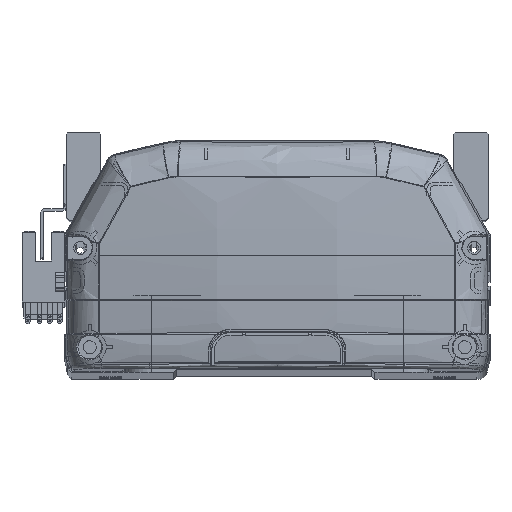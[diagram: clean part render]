
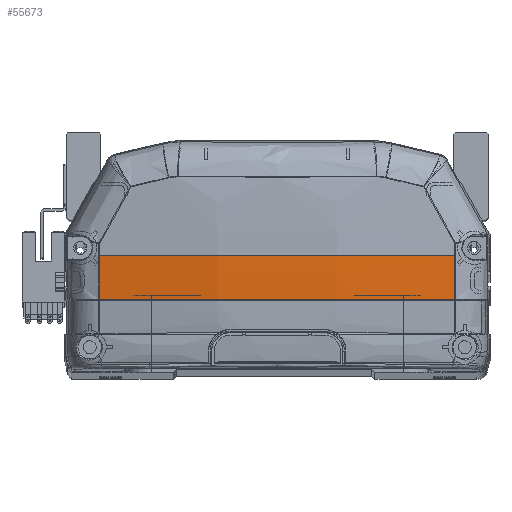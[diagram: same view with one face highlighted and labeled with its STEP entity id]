
A CAD part, top view. The second image highlights one B-rep face of the part: STEP entity #55673.
In plain terms, the highlighted free-form (B-spline) face has degree [3, 3] with [4, 4] control points.
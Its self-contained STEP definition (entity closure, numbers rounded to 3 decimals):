
#355 = B_SPLINE_CURVE_WITH_KNOTS ( 'NONE', 3,
 ( #42147, #46691, #959, #19573, #18792, #28667, #19774, #1915, #34164, #42950, #1718, #20344, #2116 ),
 .UNSPECIFIED., .F., .F.,
 ( 4, 2, 2, 1, 2, 2, 4 ),
 ( 0., 0.25, 0.375, 0.438, 0.469, 0.5, 1. ),
 .UNSPECIFIED. ) ;
#959 = CARTESIAN_POINT ( 'NONE',  ( 38.071, 22.225, -7.566 ) ) ;
#1628 = CARTESIAN_POINT ( 'NONE',  ( 57.335, 36., -5.042 ) ) ;
#1718 = CARTESIAN_POINT ( 'NONE',  ( -19.28, 22.225, -9.565 ) ) ;
#1824 = CARTESIAN_POINT ( 'NONE',  ( 57.335, 22.148, -4.7 ) ) ;
#1915 = CARTESIAN_POINT ( 'NONE',  ( 4.761, 22.225, -9.537 ) ) ;
#2017 = CARTESIAN_POINT ( 'NONE',  ( 19.295, 26.549, -11.419 ) ) ;
#2116 = CARTESIAN_POINT ( 'NONE',  ( -56.661, 22.225, -4.818 ) ) ;
#3206 = EDGE_CURVE ( 'NONE', #22244, #15286, #55947, .T. ) ;
#3847 = CARTESIAN_POINT ( 'NONE',  ( 56.661, 22.225, -4.818 ) ) ;
#11146 = CARTESIAN_POINT ( 'NONE',  ( -19.295, 26.549, -11.419 ) ) ;
#11979 = AXIS2_PLACEMENT_3D ( 'NONE', #45884, #22887, #40560 ) ;
#15110 = EDGE_LOOP ( 'NONE', ( #34543, #42275, #21921, #39199, #46668 ) ) ;
#15286 = VERTEX_POINT ( 'NONE', #31781 ) ;
#15497 = CARTESIAN_POINT ( 'NONE',  ( 19.295, 31.274, -11.535 ) ) ;
#15689 = CARTESIAN_POINT ( 'NONE',  ( 19.295, 36., -11.535 ) ) ;
#16253 = CIRCLE ( 'NONE', #25474, 6395.966 ) ;
#18792 = CARTESIAN_POINT ( 'NONE',  ( 19.121, 22.225, -9.064 ) ) ;
#18852 = B_SPLINE_CURVE_WITH_KNOTS ( 'NONE', 3,
 ( #3847, #35108, #43701, #21872 ),
 .UNSPECIFIED., .F., .F.,
 ( 4, 4 ),
 ( 0., 1. ),
 .UNSPECIFIED. ) ;
#19573 = CARTESIAN_POINT ( 'NONE',  ( 23.877, 22.225, -8.763 ) ) ;
#19682 = CARTESIAN_POINT ( 'NONE',  ( -19.295, 31.274, -11.535 ) ) ;
#19774 = CARTESIAN_POINT ( 'NONE',  ( 8.363, 22.225, -9.48 ) ) ;
#20344 = CARTESIAN_POINT ( 'NONE',  ( -38.235, 22.225, -7.93 ) ) ;
#20533 = VERTEX_POINT ( 'NONE', #41337 ) ;
#21058 = CARTESIAN_POINT ( 'NONE',  ( -56.652, 26.814, -5.045 ) ) ;
#21256 = CARTESIAN_POINT ( 'NONE',  ( -56.661, 22.225, -4.818 ) ) ;
#21872 = CARTESIAN_POINT ( 'NONE',  ( 56.647, 35.969, -5.158 ) ) ;
#21921 = ORIENTED_EDGE ( 'NONE', *, *, #55340, .F. ) ;
#22244 = VERTEX_POINT ( 'NONE', #31873 ) ;
#22887 = DIRECTION ( 'NONE',  ( 0., 1., 0. ) ) ;
#23997 = CARTESIAN_POINT ( 'NONE',  ( 19.295, 21.828, -11.186 ) ) ;
#25474 = AXIS2_PLACEMENT_3D ( 'NONE', #49748, #40434, #54071 ) ;
#28567 = CARTESIAN_POINT ( 'NONE',  ( 57.335, 26.762, -4.928 ) ) ;
#28667 = CARTESIAN_POINT ( 'NONE',  ( 11.954, 22.225, -9.367 ) ) ;
#29167 = CARTESIAN_POINT ( 'NONE',  ( -19.295, 21.828, -11.186 ) ) ;
#31129 = VERTEX_POINT ( 'NONE', #53394 ) ;
#31781 = CARTESIAN_POINT ( 'NONE',  ( -56.661, 22.225, -4.818 ) ) ;
#31873 = CARTESIAN_POINT ( 'NONE',  ( -56.647, 36., -5.158 ) ) ;
#33100 = CARTESIAN_POINT ( 'NONE',  ( -57.335, 26.762, -4.928 ) ) ;
#33299 = CARTESIAN_POINT ( 'NONE',  ( -19.295, 36., -11.535 ) ) ;
#34164 = CARTESIAN_POINT ( 'NONE',  ( 2.357, 22.225, -9.562 ) ) ;
#34543 = ORIENTED_EDGE ( 'NONE', *, *, #50870, .F. ) ;
#35108 = CARTESIAN_POINT ( 'NONE',  ( 56.652, 26.806, -5.044 ) ) ;
#36128 = EDGE_CURVE ( 'NONE', #51998, #20533, #16253, .T. ) ;
#36442 = FACE_OUTER_BOUND ( 'NONE', #15110, .T. ) ;
#37446 = CARTESIAN_POINT ( 'NONE',  ( -57.335, 22.148, -4.7 ) ) ;
#38896 = CARTESIAN_POINT ( 'NONE',  ( -56.647, 31.405, -5.158 ) ) ;
#39199 = ORIENTED_EDGE ( 'NONE', *, *, #42382, .T. ) ;
#40434 = DIRECTION ( 'NONE',  ( 0., 0., -1. ) ) ;
#40560 = DIRECTION ( 'NONE',  ( 0., 0., -1. ) ) ;
#41337 = CARTESIAN_POINT ( 'NONE',  ( 56.647, 36., -5.158 ) ) ;
#42147 = CARTESIAN_POINT ( 'NONE',  ( 56.661, 22.225, -4.818 ) ) ;
#42275 = ORIENTED_EDGE ( 'NONE', *, *, #36128, .F. ) ;
#42382 = EDGE_CURVE ( 'NONE', #31129, #15286, #355, .T. ) ;
#42849 = CARTESIAN_POINT ( 'NONE',  ( -57.335, 31.38, -5.042 ) ) ;
#42950 = CARTESIAN_POINT ( 'NONE',  ( 1.152, 22.225, -9.568 ) ) ;
#43473 = CARTESIAN_POINT ( 'NONE',  ( -56.647, 36., -5.158 ) ) ;
#43701 = CARTESIAN_POINT ( 'NONE',  ( 56.647, 31.387, -5.158 ) ) ;
#43743 = CIRCLE ( 'NONE', #11979, 340.733 ) ;
#45884 = CARTESIAN_POINT ( 'NONE',  ( 0., 36., 330.833 ) ) ;
#46668 = ORIENTED_EDGE ( 'NONE', *, *, #3206, .F. ) ;
#46691 = CARTESIAN_POINT ( 'NONE',  ( 47.432, 22.225, -6.377 ) ) ;
#46807 = CARTESIAN_POINT ( 'NONE',  ( 57.335, 31.38, -5.042 ) ) ;
#48072 = CARTESIAN_POINT ( 'NONE',  ( 56.647, 35.969, -5.158 ) ) ;
#49748 = CARTESIAN_POINT ( 'NONE',  ( 6452.613, 35.969, -5.158 ) ) ;
#50870 = EDGE_CURVE ( 'NONE', #20533, #22244, #43743, .T. ) ;
#51441 =( BOUNDED_SURFACE ( )  B_SPLINE_SURFACE ( 3, 3, ( 
 ( #1824, #28567, #46807, #1628 ),
 ( #23997, #2017, #15497, #15689 ),
 ( #29167, #11146, #19682, #33299 ),
 ( #37446, #33100, #42849, #56079 ) ),
 .UNSPECIFIED., .F., .F., .T. ) 
 B_SPLINE_SURFACE_WITH_KNOTS ( ( 4, 4 ),
 ( 4, 4 ),
 ( 0., 1. ),
 ( 0., 1. ),
 .UNSPECIFIED. ) 
 GEOMETRIC_REPRESENTATION_ITEM ( )  RATIONAL_B_SPLINE_SURFACE ( (
 ( 1., 1., 1., 1.),
 ( 0.99, 0.99, 0.99, 0.99),
 ( 0.99, 0.99, 0.99, 0.99),
 ( 1., 1., 1., 1.) ) ) 
 REPRESENTATION_ITEM ( '' )  SURFACE ( )  );
#51998 = VERTEX_POINT ( 'NONE', #48072 ) ;
#53394 = CARTESIAN_POINT ( 'NONE',  ( 56.661, 22.225, -4.818 ) ) ;
#54071 = DIRECTION ( 'NONE',  ( -1., 0., 0. ) ) ;
#55340 = EDGE_CURVE ( 'NONE', #31129, #51998, #18852, .T. ) ;
#55673 = ADVANCED_FACE ( 'NONE', ( #36442 ), #51441, .T. ) ;
#55947 = B_SPLINE_CURVE_WITH_KNOTS ( 'NONE', 3,
 ( #43473, #38896, #21058, #21256 ),
 .UNSPECIFIED., .F., .F.,
 ( 4, 4 ),
 ( 0., 1. ),
 .UNSPECIFIED. ) ;
#56079 = CARTESIAN_POINT ( 'NONE',  ( -57.335, 36., -5.042 ) ) ;
